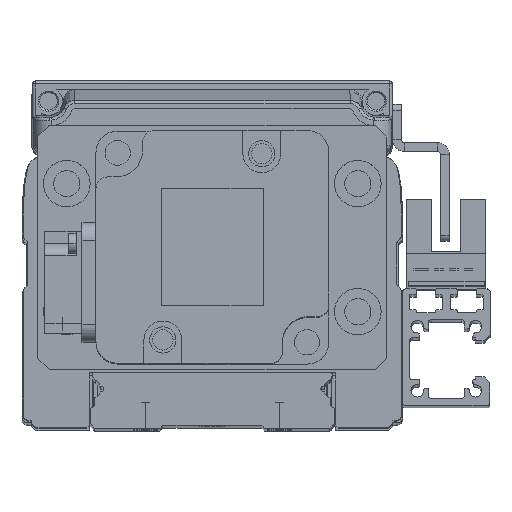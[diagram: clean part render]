
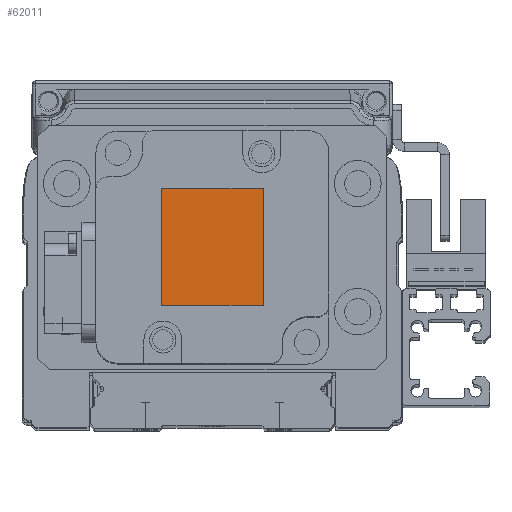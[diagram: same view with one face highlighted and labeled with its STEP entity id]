
A CAD part, top view. The second image highlights one B-rep face of the part: STEP entity #62011.
In plain terms, the highlighted planar face has unit normal (0, 0, 1) as drawn and (0, 0, -1) by its records, which use the part's own axes.
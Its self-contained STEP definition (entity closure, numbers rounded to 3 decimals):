
#2765 = AXIS2_PLACEMENT_3D ( 'NONE', #7523, #7583, #7569 ) ;
#3895 = VECTOR ( 'NONE', #11241, 1000. ) ;
#3909 = LINE ( 'NONE', #9294, #3929 ) ;
#3929 = VECTOR ( 'NONE', #9334, 1000. ) ;
#3935 = LINE ( 'NONE', #11249, #3895 ) ;
#3951 = LINE ( 'NONE', #9480, #3975 ) ;
#3975 = VECTOR ( 'NONE', #9482, 1000. ) ;
#5197 = FACE_OUTER_BOUND ( 'NONE', #76426, .T. ) ;
#5648 = VECTOR ( 'NONE', #11189, 1000. ) ;
#5677 = LINE ( 'NONE', #11201, #5648 ) ;
#7521 = PLANE ( 'NONE',  #2765 ) ;
#7523 = CARTESIAN_POINT ( 'NONE',  ( 0., 0., -82.6 ) ) ;
#7569 = DIRECTION ( 'NONE',  ( 1., 0., 0. ) ) ;
#7583 = DIRECTION ( 'NONE',  ( 0., 0., 1. ) ) ;
#9294 = CARTESIAN_POINT ( 'NONE',  ( 10., 8.75, -82.6 ) ) ;
#9334 = DIRECTION ( 'NONE',  ( 1., 0., 0. ) ) ;
#9480 = CARTESIAN_POINT ( 'NONE',  ( 10., -8.75, -82.6 ) ) ;
#9482 = DIRECTION ( 'NONE',  ( 0., -1., 0. ) ) ;
#11189 = DIRECTION ( 'NONE',  ( -1., 0., 0. ) ) ;
#11201 = CARTESIAN_POINT ( 'NONE',  ( -10., -8.75, -82.6 ) ) ;
#11241 = DIRECTION ( 'NONE',  ( 0., 1., 0. ) ) ;
#11249 = CARTESIAN_POINT ( 'NONE',  ( -10., 8.75, -82.6 ) ) ;
#25285 = ORIENTED_EDGE ( 'NONE', *, *, #65929, .T. ) ;
#25315 = ORIENTED_EDGE ( 'NONE', *, *, #65886, .T. ) ;
#25336 = ORIENTED_EDGE ( 'NONE', *, *, #65874, .T. ) ;
#25373 = ORIENTED_EDGE ( 'NONE', *, *, #65861, .T. ) ;
#28922 = VERTEX_POINT ( 'NONE', #63027 ) ;
#30415 = VERTEX_POINT ( 'NONE', #64122 ) ;
#30424 = VERTEX_POINT ( 'NONE', #64095 ) ;
#30452 = VERTEX_POINT ( 'NONE', #64144 ) ;
#62011 = ADVANCED_FACE ( 'NONE', ( #5197 ), #7521, .F. ) ;
#63027 = CARTESIAN_POINT ( 'NONE',  ( 10., 8.75, -82.6 ) ) ;
#64095 = CARTESIAN_POINT ( 'NONE',  ( -10., 8.75, -82.6 ) ) ;
#64122 = CARTESIAN_POINT ( 'NONE',  ( 10., -8.75, -82.6 ) ) ;
#64144 = CARTESIAN_POINT ( 'NONE',  ( -10., -8.75, -82.6 ) ) ;
#65861 = EDGE_CURVE ( 'NONE', #30415, #30452, #5677, .T. ) ;
#65874 = EDGE_CURVE ( 'NONE', #30452, #30424, #3935, .T. ) ;
#65886 = EDGE_CURVE ( 'NONE', #30424, #28922, #3909, .T. ) ;
#65929 = EDGE_CURVE ( 'NONE', #28922, #30415, #3951, .T. ) ;
#76426 = EDGE_LOOP ( 'NONE', ( #25336, #25315, #25285, #25373 ) ) ;
